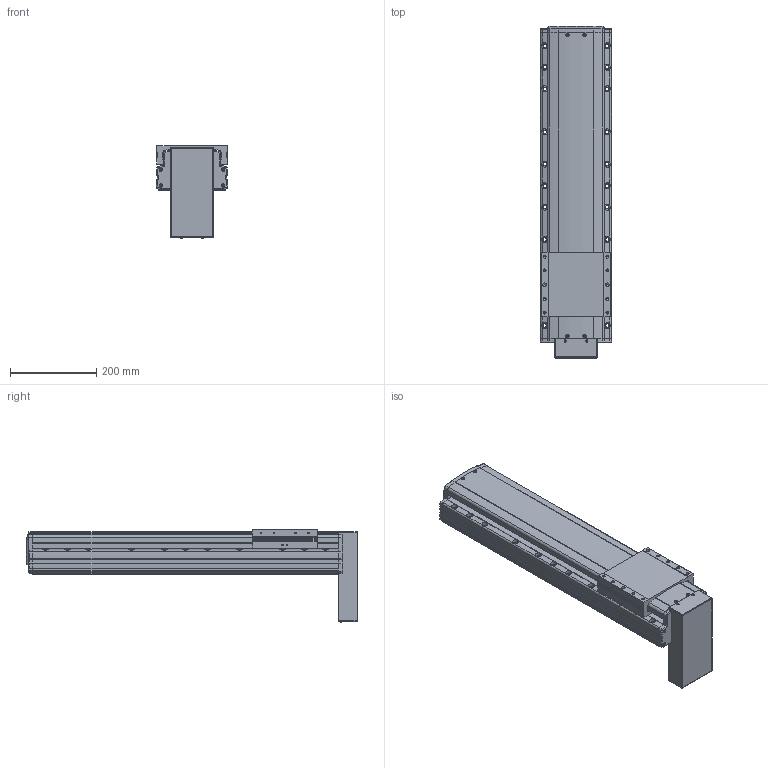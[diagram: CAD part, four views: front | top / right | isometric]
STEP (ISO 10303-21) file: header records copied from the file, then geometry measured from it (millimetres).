
FILE_DESCRIPTION(('STEP AP214'),'1');
FILE_NAME('Z:/Web/3D/PSA165/STP/PSA165-450 (3D)/PSA165ㅁㅁ-450PB.stp','2014-06-23T11:25:10',(' '),(' '),'Spatial InterOp 3D',' ',' ');
FILE_SCHEMA(('automotive_design'));
Length unit declared in the file: millimetre
Products named in the file (29): 스크루 : Round - M4.0 x 12.0; RRCV-PA160; BASE; 스크루 : Round - M4.0 x 10.0; RN15; Screw 20; SLIDE; FRCV; MTPL CV- PB; 스크루 : Round - M3.0 x 6.0; 1; 2
Bounding box: 165 x 770.8 x 215.96 mm (x, y, z)
Volume: 11069018.1 mm3; surface area: 774919.7 mm2
Topology: 29 solids, 29 shells, 2135 faces, 5712 edges, 3640 vertices
Faces by surface type: plane 1166, cylinder 670, cone 206, sphere 52, bspline 25, torus 16
Entity records: 86705 total; most frequent: CARTESIAN_POINT 15390, DIRECTION 11363, ORIENTED_EDGE 11148, EDGE_CURVE 5574, AXIS2_PLACEMENT_3D 3833, LINE 3697, VECTOR 3697, VERTEX_POINT 3640
